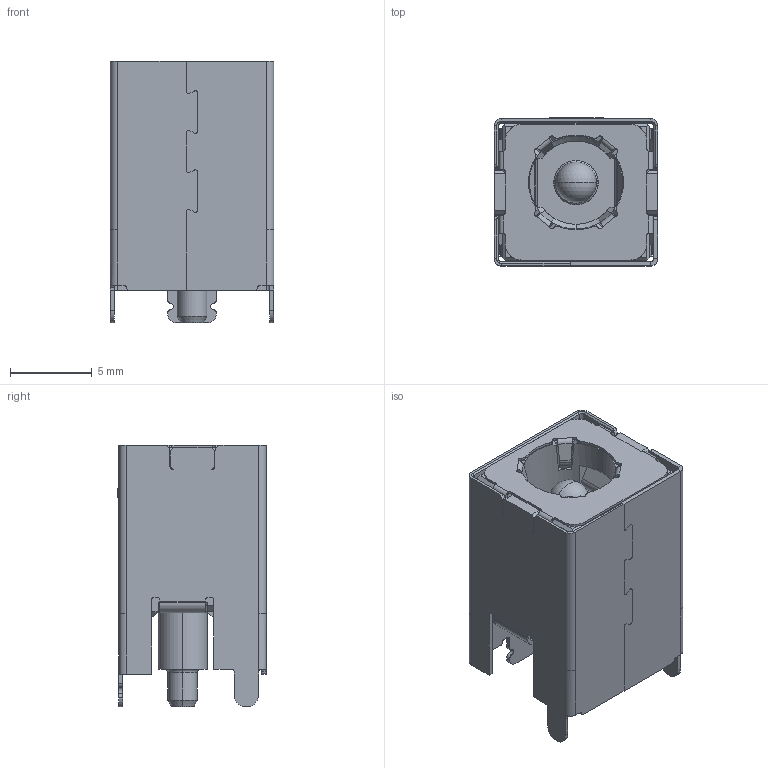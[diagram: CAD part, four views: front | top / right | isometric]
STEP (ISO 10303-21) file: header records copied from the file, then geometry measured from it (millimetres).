
FILE_DESCRIPTION (( 'STEP AP203' ), '1' );
FILE_NAME ('DC-S011E-D025-20A.STEP', '2023-07-14T11:27:08', ( '' ), ( '' ), 'SwSTEP 2.0', 'SolidWorks 2023', '' );
FILE_SCHEMA (( 'CONFIG_CONTROL_DESIGN' ));
Length unit declared in the file: millimetre
Products named in the file (1): DC-S011E-D025-20A
Bounding box: 10 x 9.05 x 16 mm (x, y, z)
Volume: 571.5 mm3; surface area: 2282.3 mm2
Topology: 1 solids, 2 shells, 1160 faces, 3054 edges, 1900 vertices
Faces by surface type: plane 743, cylinder 304, bspline 90, cone 19, torus 2, sphere 2
Entity records: 39608 total; most frequent: CARTESIAN_POINT 11399, ORIENTED_EDGE 6100, DIRECTION 5486, EDGE_CURVE 3050, LINE 2150, VECTOR 2150, VERTEX_POINT 1898, AXIS2_PLACEMENT_3D 1668
